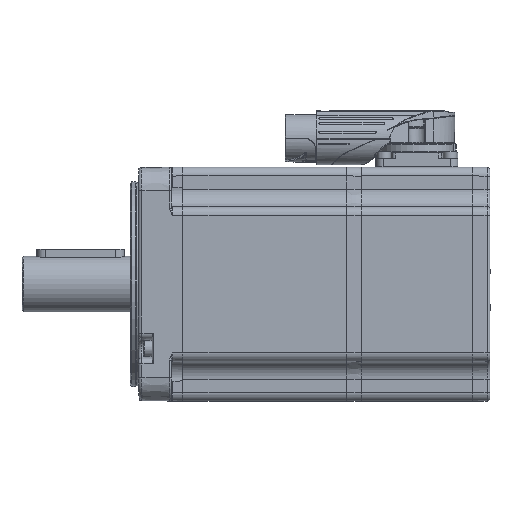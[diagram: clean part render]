
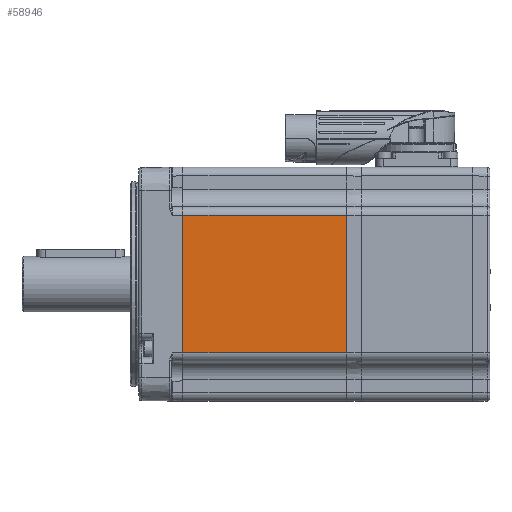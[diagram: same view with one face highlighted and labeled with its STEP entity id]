
A CAD part, left-side view. The second image highlights one B-rep face of the part: STEP entity #58946.
In plain terms, the highlighted planar face has unit normal (-1, 0, 0) as drawn and (0, -1, 0) by its records, which use the part's own axes.
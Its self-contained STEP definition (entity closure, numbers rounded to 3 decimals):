
#14127=ORIENTED_EDGE('',*,*,#21780,.T.);
#14128=ORIENTED_EDGE('',*,*,#21758,.T.);
#14129=ORIENTED_EDGE('',*,*,#21781,.T.);
#14130=ORIENTED_EDGE('',*,*,#21733,.T.);
#21733=EDGE_CURVE('',#26201,#26200,#29299,.T.);
#21758=EDGE_CURVE('',#26226,#26225,#29307,.T.);
#21780=EDGE_CURVE('',#26200,#26226,#29314,.F.);
#21781=EDGE_CURVE('',#26225,#26201,#29315,.F.);
#26200=VERTEX_POINT('',#106739);
#26201=VERTEX_POINT('',#106741);
#26225=VERTEX_POINT('',#106790);
#26226=VERTEX_POINT('',#106792);
#29299=LINE('',#106740,#31753);
#29307=LINE('',#106791,#31761);
#29314=LINE('',#106842,#31768);
#29315=LINE('',#106843,#31769);
#31753=VECTOR('',#71670,1000.);
#31761=VECTOR('',#71714,1000.);
#31768=VECTOR('',#71767,1000.);
#31769=VECTOR('',#71768,1000.);
#34412=EDGE_LOOP('',(#14127,#14128,#14129,#14130));
#37668=FACE_BOUND('',#34412,.T.);
#39462=PLANE('',#62700);
#58946=ADVANCED_FACE('',(#37668),#39462,.T.);
#62700=AXIS2_PLACEMENT_3D('',#106841,#71765,#71766);
#71670=DIRECTION('',(0.,0.,-1.));
#71714=DIRECTION('',(0.,0.,1.));
#71765=DIRECTION('',(0.,-1.,0.));
#71766=DIRECTION('',(0.,0.,-1.));
#71767=DIRECTION('',(-1.,0.,0.));
#71768=DIRECTION('',(1.,0.,0.));
#106739=CARTESIAN_POINT('',(-57.,-40.,-23.5));
#106740=CARTESIAN_POINT('',(-57.,-40.,40.));
#106741=CARTESIAN_POINT('',(-57.,-40.,23.5));
#106790=CARTESIAN_POINT('',(-1.,-40.,23.5));
#106791=CARTESIAN_POINT('',(-1.,-40.,40.));
#106792=CARTESIAN_POINT('',(-1.,-40.,-23.5));
#106841=CARTESIAN_POINT('',(-200.,-40.,40.));
#106842=CARTESIAN_POINT('',(0.,-40.,-23.5));
#106843=CARTESIAN_POINT('',(-200.,-40.,23.5));
